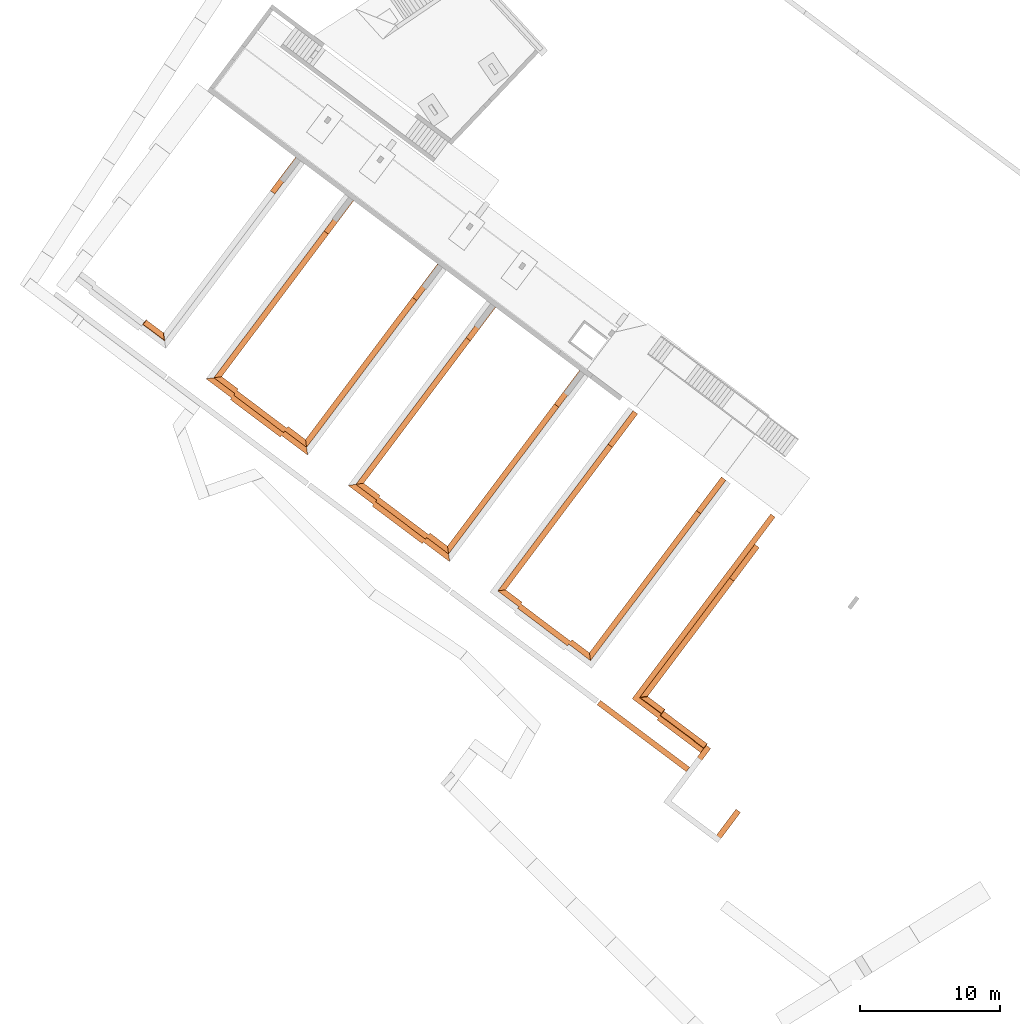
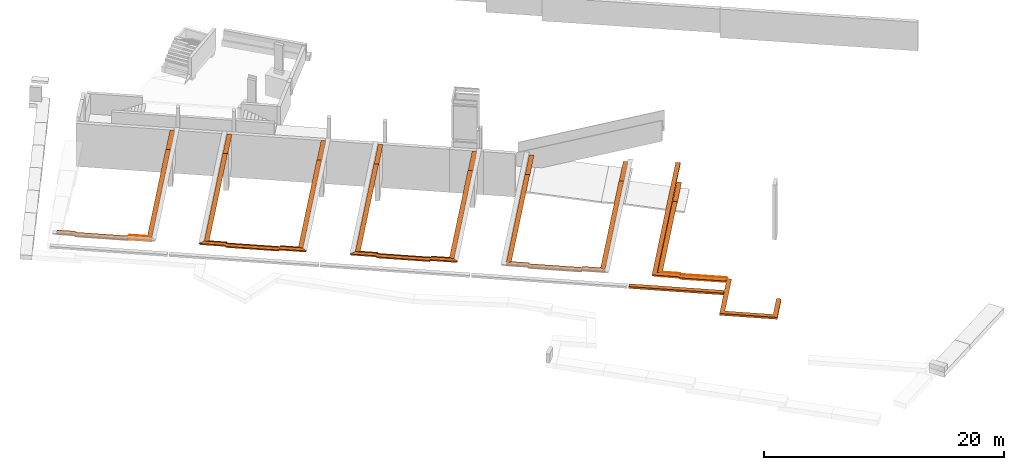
# One storey, part 9 of 11: 7 proxies.
"""IFC2X3 building model written with IfcOpenShell, lengths in metres."""

import ifcopenshell
import ifcopenshell.guid

model = None  # the IFC model being written
_history = None  # IfcOwnerHistory: only IFC2X3 demands one
_inside = {}  # id of a spatial element -> (the spatial element, [elements in it])
_under = {}  # id of a project, library or spatial element -> (it, [spatial elements below it])
_declared = {}  # id of a project -> (the project, [libraries it declares])
_typed = {}  # id of a type object -> (the type object, [elements of that type])
_made_of = {}  # id of a material, layer set ... -> (it, [elements and type objects made of it])


def new_model(schema):
    """Start an empty IFC model of exactly this schema.

    Asked for "IFC4X3", IfcOpenShell would pick the latest addendum, in which some entities
    have other attributes; the version numbers below select the first issue.
    IFC2X3 requires an IfcOwnerHistory on every rooted entity: one is made here for all.
    """
    global model, _history
    if schema == "IFC4X3":
        model = ifcopenshell.file(schema_version=(4, 3, 0, 0))
    else:
        model = ifcopenshell.file(schema=schema)
    _inside.clear()
    _under.clear()
    _declared.clear()
    _typed.clear()
    _made_of.clear()
    _history = None
    if model.schema == "IFC2X3":
        org = make("IfcOrganization", Name="unknown")
        user = make(
            "IfcPersonAndOrganization",
            ThePerson=make("IfcPerson", FamilyName="unknown"),
            TheOrganization=org,
        )
        app = make(
            "IfcApplication",
            ApplicationDeveloper=org,
            Version="unknown",
            ApplicationFullName="unknown",
            ApplicationIdentifier="unknown",
        )
        _history = make(
            "IfcOwnerHistory",
            OwningUser=user,
            OwningApplication=app,
            ChangeAction="ADDED",
            CreationDate=0,
        )
    return model


def make(cls, **values):
    """One entity of the class cls with the attributes given. An attribute that is None is left unset."""
    return model.create_entity(
        cls, **{name: value for name, value in values.items() if value is not None}
    )


def entity(cls, *values):
    """Any entity or typed value of the class cls, its attributes in the order of the schema. None: left unset."""
    e = model.create_entity(cls)
    for i, value in enumerate(values):
        if value is not None:
            e[i] = value
    return e


def rooted(cls, **values):
    """An entity with a GlobalId (a new one), such as an element, a storey or a relation."""
    return make(cls, GlobalId=ifcopenshell.guid.new(), OwnerHistory=_history, **values)


def si_unit(unit_type, name, prefix=None):
    """IfcSIUnit, for example si_unit("LENGTHUNIT", "METRE", prefix="MILLI")."""
    return make("IfcSIUnit", UnitType=unit_type, Prefix=prefix, Name=name)


def converted_unit(unit_type, name, factor, base, dimensions=None, offset=None):
    """IfcConversionBasedUnit, such as the inch: factor (a typed value) times the base unit."""
    return make(
        "IfcConversionBasedUnit"
        if offset is None
        else "IfcConversionBasedUnitWithOffset",
        ConversionOffset=offset,
        Dimensions=None
        if dimensions is None
        else entity("IfcDimensionalExponents", *dimensions),
        UnitType=unit_type,
        Name=name,
        ConversionFactor=make(
            "IfcMeasureWithUnit", ValueComponent=factor, UnitComponent=base
        ),
    )


def derived_unit(unit_type, elements):
    """IfcDerivedUnit: a product of units, each with its exponent."""
    return make(
        "IfcDerivedUnit",
        Elements=[
            make("IfcDerivedUnitElement", Unit=unit, Exponent=power)
            for unit, power in elements
        ],
        UnitType=unit_type,
    )


def assignment(units):
    """IfcUnitAssignment: the units of a project."""
    return None if units is None else make("IfcUnitAssignment", Units=units)


def point(xyz):
    """IfcCartesianPoint."""
    return None if xyz is None else make("IfcCartesianPoint", Coordinates=xyz)


def direction(xyz):
    """IfcDirection."""
    return None if xyz is None else make("IfcDirection", DirectionRatios=xyz)


def frame(location, z_axis=None, x_axis=None):
    """IfcAxis2Placement3D, a coordinate frame: its origin and axes. An axis left out is left unset."""
    return make(
        "IfcAxis2Placement3D",
        Location=point(location),
        Axis=direction(z_axis),
        RefDirection=direction(x_axis),
    )


def origin():
    """The frame at (0, 0, 0) with its axes left unset."""
    return frame((0.0, 0.0, 0.0))


def place(relative_to, where):
    """IfcLocalPlacement: puts the frame where relative to a parent placement (None: the world)."""
    return make(
        "IfcLocalPlacement", PlacementRelTo=relative_to, RelativePlacement=where
    )


def context(
    kind, dimensions, precision=None, world=None, true_north=None, identifier=None
):
    """IfcGeometricRepresentationContext, for example the 3D "Model" context."""
    return make(
        "IfcGeometricRepresentationContext",
        ContextIdentifier=identifier,
        ContextType=kind,
        CoordinateSpaceDimension=dimensions,
        Precision=precision,
        WorldCoordinateSystem=world,
        TrueNorth=true_north,
    )


def subcontext(parent, identifier, kind, view, scale=None):
    """IfcGeometricRepresentationSubContext, for example "Body" below "Model"."""
    return make(
        "IfcGeometricRepresentationSubContext",
        ContextIdentifier=identifier,
        ContextType=kind,
        ParentContext=parent,
        TargetScale=scale,
        TargetView=view,
    )


def project(units=None, contexts=None):
    """IfcProject with its units and contexts."""
    return rooted(
        "IfcProject",
        Name="project",
        RepresentationContexts=contexts,
        UnitsInContext=assignment(units),
    )


def spatial(cls, under=None, at=None, **own):
    """A site, building, storey or space (cls), placed at a placement, below another one or the project."""
    s = rooted(cls, ObjectPlacement=at, **own)
    if under is not None:
        _under.setdefault(under.id(), (under, []))[1].append(s)
    return s


def faces_of(points, faces, orient=None, outer=None):
    """IfcFace entities. A face is a list of loops; a loop is a list of indices into points, from 0.

    orient and outer hold one flag for each loop. By default every Orientation is true, the
    first loop of a face is its IfcFaceOuterBound and the others are IfcFaceBound.
    """
    made = []
    for i, loops in enumerate(faces):
        bounds = []
        for j, loop in enumerate(loops):
            is_outer = j == 0 if outer is None else outer[i][j]
            bounds.append(
                make(
                    "IfcFaceOuterBound" if is_outer else "IfcFaceBound",
                    Bound=make("IfcPolyLoop", Polygon=[points[k] for k in loop]),
                    Orientation=True if orient is None else orient[i][j],
                )
            )
        made.append(make("IfcFace", Bounds=bounds))
    return made


def faceted_brep(points, faces, orient=None, outer=None, voids=None):
    """IfcFacetedBrep: a solid bounded by flat faces; with voids (closed shells), ...WithVoids."""
    shared = [point(p) for p in points]
    hull = make("IfcClosedShell", CfsFaces=faces_of(shared, faces, orient, outer))
    if voids is None:
        return make("IfcFacetedBrep", Outer=hull)
    return make(
        "IfcFacetedBrepWithVoids",
        Outer=hull,
        Voids=[
            make(cls, CfsFaces=faces_of(shared, fs, o, b)) for cls, fs, o, b in voids
        ],
    )


def shape(context_of_items, identifier, shape_type, items):
    """IfcShapeRepresentation: the items that make up one representation, for example the "Body"."""
    return make(
        "IfcShapeRepresentation",
        ContextOfItems=context_of_items,
        RepresentationIdentifier=identifier,
        RepresentationType=shape_type,
        Items=items,
    )


def made_of(thing, what):
    """Note that an element or type object is made of a material, layer set ...; save() writes the relation."""
    if what is not None:
        _made_of.setdefault(what.id(), (what, []))[1].append(thing)
    return thing


def type_object(cls, material=None, **own):
    """A type object (cls), such as IfcWallType, which elements share."""
    return made_of(rooted(cls, **own), material)


def element(
    cls,
    number,
    at=None,
    inside=None,
    cuts=None,
    type_object=None,
    material=None,
    context=None,
    identifier="Body",
    shape_type=None,
    held_by="IfcProductDefinitionShape",
    body=None,
    shapes=None,
    **own,
):
    """One element of the class cls, such as IfcWall. Its Tag is "e" and its number.

    at: its placement. inside: the storey or other place that contains it. cuts: it is an
    opening in that element (IfcRelVoidsElement). A single representation is given by context,
    identifier, shape_type and body (its items); several are given by shapes. held_by: the class
    of the entity that holds the representations. save() writes the other relations.
    """
    e = rooted(cls, Tag="e%d" % number, ObjectPlacement=at, **own)
    if body is not None:
        shapes = [shape(context, identifier, shape_type, body)]
    if shapes is not None:
        e.Representation = make(held_by, Representations=shapes)
    if inside is not None:
        _inside.setdefault(inside.id(), (inside, []))[1].append(e)
    if cuts is not None:
        rooted(
            "IfcRelVoidsElement", RelatingBuildingElement=cuts, RelatedOpeningElement=e
        )
    if type_object is not None:
        _typed.setdefault(type_object.id(), (type_object, []))[1].append(e)
    return made_of(e, material)


def aggregate(whole, parts):
    """IfcRelAggregates: a whole, such as a stair, and the parts it consists of."""
    return rooted("IfcRelAggregates", RelatingObject=whole, RelatedObjects=parts)


def save(model, path):
    """Write the relations noted so far, then the file.

    IfcRelAggregates (storeys below a building ...), IfcRelContainedInSpatialStructure (elements
    in a storey), IfcRelDefinesByType, IfcRelAssociatesMaterial and IfcRelDeclares: one each for
    every whole, place, type object, material and project.
    """
    for whole, parts in _under.values():
        aggregate(whole, parts)
    for where, things in _inside.values():
        rooted(
            "IfcRelContainedInSpatialStructure",
            RelatedElements=things,
            RelatingStructure=where,
        )
    for kind, things in _typed.values():
        rooted("IfcRelDefinesByType", RelatedObjects=things, RelatingType=kind)
    for what, things in _made_of.values():
        rooted("IfcRelAssociatesMaterial", RelatedObjects=things, RelatingMaterial=what)
    for by, libraries in _declared.values():
        rooted("IfcRelDeclares", RelatingContext=by, RelatedDefinitions=libraries)
    model.write(path)


model = new_model("IFC2X3")

# Units and contexts
model_context = context("Model", 3, precision=1e-05, world=origin(), true_north=direction((6.123031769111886e-17, 1.0)))
body_context = subcontext(model_context, "Body", "Model", "MODEL_VIEW")
ifc_project = project(units=[si_unit("LENGTHUNIT", "METRE"), si_unit("AREAUNIT", "SQUARE_METRE"), si_unit("VOLUMEUNIT", "CUBIC_METRE"), converted_unit("PLANEANGLEUNIT", "DEGREE", entity("IfcRatioMeasure", 0.017453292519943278), si_unit("PLANEANGLEUNIT", "RADIAN"), dimensions=[0, 0, 0, 0, 0, 0, 0]), si_unit("MASSUNIT", "GRAM", prefix="KILO"), derived_unit("MASSDENSITYUNIT", [(si_unit("MASSUNIT", "GRAM", prefix="KILO"), 1), (si_unit("LENGTHUNIT", "METRE"), -3)]), derived_unit("IONCONCENTRATIONUNIT", [(si_unit("MASSUNIT", "GRAM", prefix="KILO"), 1), (si_unit("LENGTHUNIT", "METRE"), -3)]), derived_unit("MOMENTOFINERTIAUNIT", [(si_unit("LENGTHUNIT", "METRE"), 4)]), si_unit("TIMEUNIT", "SECOND"), si_unit("FREQUENCYUNIT", "HERTZ"), si_unit("THERMODYNAMICTEMPERATUREUNIT", "DEGREE_CELSIUS"), derived_unit("THERMALTRANSMITTANCEUNIT", [(si_unit("MASSUNIT", "GRAM", prefix="KILO"), 1), (si_unit("THERMODYNAMICTEMPERATUREUNIT", "KELVIN"), -1), (si_unit("TIMEUNIT", "SECOND"), -3)]), derived_unit("THERMALCONDUCTANCEUNIT", [(si_unit("MASSUNIT", "GRAM", prefix="KILO"), 1), (si_unit("THERMODYNAMICTEMPERATUREUNIT", "KELVIN"), -1), (si_unit("TIMEUNIT", "SECOND"), -3), (si_unit("LENGTHUNIT", "METRE"), 1)]), derived_unit("VOLUMETRICFLOWRATEUNIT", [(si_unit("LENGTHUNIT", "METRE"), 3), (si_unit("TIMEUNIT", "SECOND"), -1)]), derived_unit("MASSFLOWRATEUNIT", [(si_unit("MASSUNIT", "GRAM", prefix="KILO"), 1), (si_unit("TIMEUNIT", "SECOND"), -1)]), derived_unit("ROTATIONALFREQUENCYUNIT", [(si_unit("TIMEUNIT", "SECOND"), -1)]), si_unit("ELECTRICCURRENTUNIT", "AMPERE"), si_unit("ELECTRICVOLTAGEUNIT", "VOLT"), si_unit("POWERUNIT", "WATT"), si_unit("FORCEUNIT", "NEWTON", prefix="KILO"), si_unit("ILLUMINANCEUNIT", "LUX"), si_unit("LUMINOUSFLUXUNIT", "LUMEN"), si_unit("LUMINOUSINTENSITYUNIT", "CANDELA"), derived_unit("USERDEFINED", [(si_unit("MASSUNIT", "GRAM", prefix="KILO"), -1), (si_unit("LENGTHUNIT", "METRE"), -2), (si_unit("TIMEUNIT", "SECOND"), 3), (si_unit("LUMINOUSFLUXUNIT", "LUMEN"), 1)]), derived_unit("USERDEFINED", [(si_unit("MASSUNIT", "GRAM", prefix="KILO"), 1), (si_unit("TIMEUNIT", "SECOND"), -3), (si_unit("LENGTHUNIT", "METRE"), 3), (si_unit("ELECTRICCURRENTUNIT", "AMPERE"), -2)]), derived_unit("SOUNDPOWERUNIT", [(si_unit("MASSUNIT", "GRAM", prefix="KILO"), 1), (si_unit("TIMEUNIT", "SECOND"), -3), (si_unit("LENGTHUNIT", "METRE"), 2)]), derived_unit("SOUNDPRESSUREUNIT", [(si_unit("MASSUNIT", "GRAM", prefix="KILO"), 1), (si_unit("LENGTHUNIT", "METRE"), -1), (si_unit("TIMEUNIT", "SECOND"), -2)]), derived_unit("LINEARVELOCITYUNIT", [(si_unit("LENGTHUNIT", "METRE"), 1), (si_unit("TIMEUNIT", "SECOND"), -1)]), si_unit("PRESSUREUNIT", "PASCAL"), derived_unit("USERDEFINED", [(si_unit("MASSUNIT", "GRAM", prefix="KILO"), 1), (si_unit("LENGTHUNIT", "METRE"), -2), (si_unit("TIMEUNIT", "SECOND"), -2)]), derived_unit("LINEARFORCEUNIT", [(si_unit("MASSUNIT", "GRAM", prefix="KILO"), 1), (si_unit("TIMEUNIT", "SECOND"), -2)]), derived_unit("PLANARFORCEUNIT", [(si_unit("MASSUNIT", "GRAM", prefix="KILO"), 1), (si_unit("LENGTHUNIT", "METRE"), -1), (si_unit("TIMEUNIT", "SECOND"), -2)]), derived_unit("SPECIFICHEATCAPACITYUNIT", [(si_unit("THERMODYNAMICTEMPERATUREUNIT", "KELVIN"), -1), (si_unit("LENGTHUNIT", "METRE"), 2), (si_unit("TIMEUNIT", "SECOND"), -2)]), derived_unit("HEATINGVALUEUNIT", [(si_unit("LENGTHUNIT", "METRE"), 2), (si_unit("TIMEUNIT", "SECOND"), -2)]), derived_unit("VAPORPERMEABILITYUNIT", [(si_unit("LENGTHUNIT", "METRE"), -1), (si_unit("TIMEUNIT", "SECOND"), 1)]), derived_unit("DYNAMICVISCOSITYUNIT", [(si_unit("MASSUNIT", "GRAM", prefix="KILO"), 1), (si_unit("TIMEUNIT", "SECOND"), -1), (si_unit("LENGTHUNIT", "METRE"), -1)]), derived_unit("THERMALEXPANSIONCOEFFICIENTUNIT", [(si_unit("THERMODYNAMICTEMPERATUREUNIT", "KELVIN"), -1)]), derived_unit("MODULUSOFELASTICITYUNIT", [(si_unit("MASSUNIT", "GRAM", prefix="KILO"), 1), (si_unit("LENGTHUNIT", "METRE"), -1), (si_unit("TIMEUNIT", "SECOND"), -2)]), derived_unit("ISOTHERMALMOISTURECAPACITYUNIT", [(si_unit("LENGTHUNIT", "METRE"), 3), (si_unit("MASSUNIT", "GRAM", prefix="KILO"), -1)]), derived_unit("MOISTUREDIFFUSIVITYUNIT", [(si_unit("TIMEUNIT", "SECOND"), -1), (si_unit("LENGTHUNIT", "METRE"), 2)])], contexts=[model_context])

# Site, building, storey
site_placement = place(None, origin())
site = spatial("IfcSite", under=ifc_project, at=site_placement, Name="Default", CompositionType="ELEMENT")
building_placement = place(site_placement, frame((0.0, 0.0, 235.0), z_axis=(0.0, 0.0, 1.0), x_axis=(-0.7996477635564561, 0.6004693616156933, 0.0)))
building = spatial("IfcBuilding", under=site, at=building_placement, CompositionType="ELEMENT")
storey_placement = place(building_placement, frame((0.0, 0.0, -4.459999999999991)))
storey = spatial("IfcBuildingStorey", under=building, at=storey_placement, Name="PS1- Vestuari", CompositionType="ELEMENT", Elevation=-4.459999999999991)

# Proxies
building_element_proxy_type = type_object("IfcBuildingElementProxyType", Name="Borde de losa:STR- Formigó- Vora solera 15 cm- 35x30 cm", PredefinedType="NOTDEFINED")
proxy_1_placement = place(storey_placement, frame((13.24514768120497, -20.420191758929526, 3.8199999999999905)))
element("IfcBuildingElementProxy", 1, at=proxy_1_placement, inside=storey, type_object=building_element_proxy_type, Name="Borde de losa:STR- Formigó- Vora solera 15 cm- 35x30 cm", ObjectType="Borde de losa:STR- Formigó- Vora solera 15 cm- 35x30 cm", context=body_context, shape_type="Brep", body=[
    faceted_brep([(0.0, 2.3800000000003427, 0.0), (0.29999999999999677, 2.3800000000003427, 0.0), (0.4, 2.3800000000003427, 0.20000000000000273), (0.0, 2.3800000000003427, 0.2000000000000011), (0.0, 5.100000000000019, 0.2000000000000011), (0.0, 5.100000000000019, 0.0), (0.40000000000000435, 4.700000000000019, 0.20000000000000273), (0.30000000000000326, 4.80000000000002, 0.0), (4.849999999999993, 5.1, 0.2000000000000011), (4.849999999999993, 5.1, 0.0), (4.449999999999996, 4.700000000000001, 0.20000000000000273), (4.5499999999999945, 4.800000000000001, 0.0), (4.8499999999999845, 0.0, 0.0), (4.8499999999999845, 0.0, 0.2000000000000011), (4.449999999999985, 0.0, 0.20000000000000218), (4.549999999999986, 0.0, 0.0)], [[[0, 1, 2, 3]], [[4, 5, 0, 3]], [[6, 4, 3, 2]], [[7, 6, 2, 1]], [[5, 7, 1, 0]], [[8, 9, 5, 4]], [[10, 8, 4, 6]], [[11, 10, 6, 7]], [[9, 11, 7, 5]], [[12, 13, 14, 15]], [[13, 12, 9, 8]], [[14, 13, 8, 10]], [[15, 14, 10, 11]], [[12, 15, 11, 9]]]),
])
proxy_2_placement = place(storey_placement, frame((23.54514768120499, -36.41519175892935, 3.7399999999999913)))
element("IfcBuildingElementProxy", 2, at=proxy_2_placement, inside=storey, type_object=building_element_proxy_type, Name="Borde de losa:STR- Formigó- Vora solera 15 cm- 35x30 cm", ObjectType="Borde de losa:STR- Formigó- Vora solera 15 cm- 35x30 cm", context=body_context, shape_type="Brep", body=[
    faceted_brep([(4.799999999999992, 16.129999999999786, 0.11999999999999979), (4.799999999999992, 16.129999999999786, 0.3199999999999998), (5.199999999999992, 15.729999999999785, 0.3200000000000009), (5.0999999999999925, 15.829999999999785, 0.12000000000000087), (5.199999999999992, 3.0, 0.3200000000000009), (4.799999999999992, 3.0, 0.3199999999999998), (4.799999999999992, 3.0, 0.2), (4.799999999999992, 3.0, 0.11999999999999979), (5.0999999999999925, 3.0, 0.12000000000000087), (5.139999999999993, 3.0, 0.2)], [[[0, 1, 2, 3]], [[4, 5, 6, 7, 8, 9]], [[1, 0, 7, 6, 5]], [[2, 1, 5, 4]], [[3, 2, 4, 9, 8]], [[0, 3, 8, 7]]]),
    faceted_brep([(13.099999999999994, 3.0, 0.3199999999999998), (12.699999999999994, 3.0, 0.3200000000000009), (12.759999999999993, 3.0, 0.2), (12.799999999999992, 3.0, 0.12000000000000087), (13.099999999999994, 3.0, 0.11999999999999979), (13.099999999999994, 3.0, 0.2), (13.099999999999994, 16.129999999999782, 0.3199999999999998), (13.099999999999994, 16.129999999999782, 0.11999999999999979), (12.799999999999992, 15.82999999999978, 0.12000000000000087), (12.699999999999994, 15.729999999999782, 0.3200000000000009)], [[[0, 1, 2, 3, 4, 5]], [[6, 7, 8, 9]], [[7, 6, 0, 5, 4]], [[1, 0, 6, 9]], [[9, 8, 3, 2, 1]], [[4, 3, 8, 7]]]),
    faceted_brep([(4.799999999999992, 3.0, 0.0), (4.799999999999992, 3.0, 0.2), (5.199999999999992, 3.0, 0.2000000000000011), (5.0999999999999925, 3.0, 0.0), (4.799999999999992, 0.0, 0.2), (4.799999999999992, 0.0, 0.0), (5.0999999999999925, 0.0, 0.0), (5.199999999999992, 0.0, 0.2000000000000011)], [[[0, 1, 2, 3]], [[4, 5, 6, 7]], [[1, 0, 5, 4]], [[2, 1, 4, 7]], [[3, 2, 7, 6]], [[0, 3, 6, 5]]]),
    faceted_brep([(13.099999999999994, 0.0, 0.0), (13.099999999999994, 0.0, 0.2), (12.699999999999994, 0.0, 0.2000000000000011), (12.799999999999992, 0.0, 0.0), (13.099999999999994, 3.0, 0.2), (13.099999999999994, 3.0, 0.0), (12.799999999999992, 3.0, 0.0), (12.699999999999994, 3.0, 0.2000000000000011)], [[[0, 1, 2, 3]], [[4, 5, 6, 7]], [[1, 0, 5, 4]], [[2, 1, 4, 7]], [[3, 2, 7, 6]], [[0, 3, 6, 5]]]),
    faceted_brep([(17.499999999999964, 3.0, 0.0), (17.499999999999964, 3.0, 0.2), (17.89999999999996, 3.0, 0.2000000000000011), (17.799999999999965, 3.0, 0.0), (17.499999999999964, 0.0, 0.2), (17.499999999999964, 0.0, 0.0), (17.799999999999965, 0.0, 0.0), (17.89999999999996, 0.0, 0.2000000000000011)], [[[0, 1, 2, 3]], [[4, 5, 6, 7]], [[1, 0, 5, 4]], [[2, 1, 4, 7]], [[3, 2, 7, 6]], [[0, 3, 6, 5]]]),
    faceted_brep([(17.49999999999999, 16.129999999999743, 0.11999999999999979), (17.49999999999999, 16.129999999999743, 0.3199999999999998), (17.899999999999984, 15.729999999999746, 0.3200000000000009), (17.79999999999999, 15.82999999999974, 0.12000000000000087), (17.899999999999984, 3.0, 0.3200000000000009), (17.49999999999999, 3.0, 0.3199999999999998), (17.49999999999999, 3.0, 0.2), (17.49999999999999, 3.0, 0.11999999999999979), (17.79999999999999, 3.0, 0.12000000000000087), (17.83999999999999, 3.0, 0.2)], [[[0, 1, 2, 3]], [[4, 5, 6, 7, 8, 9]], [[1, 0, 7, 6, 5]], [[2, 1, 5, 4]], [[3, 2, 4, 9, 8]], [[0, 3, 8, 7]]]),
    faceted_brep([(25.79999999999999, 3.0, 0.3199999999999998), (25.399999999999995, 3.0, 0.3200000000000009), (25.45999999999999, 3.0, 0.2), (25.49999999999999, 3.0, 0.12000000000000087), (25.79999999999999, 3.0, 0.11999999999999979), (25.79999999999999, 3.0, 0.2), (25.79999999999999, 16.129999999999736, 0.3199999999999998), (25.79999999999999, 16.129999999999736, 0.11999999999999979), (25.49999999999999, 15.829999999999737, 0.12000000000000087), (25.399999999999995, 15.729999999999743, 0.3200000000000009)], [[[0, 1, 2, 3, 4, 5]], [[6, 7, 8, 9]], [[7, 6, 0, 5, 4]], [[1, 0, 6, 9]], [[9, 8, 3, 2, 1]], [[4, 3, 8, 7]]]),
    faceted_brep([(25.799999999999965, 0.0, 0.0), (25.799999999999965, 0.0, 0.2), (25.39999999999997, 0.0, 0.2000000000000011), (25.499999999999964, 0.0, 0.0), (25.799999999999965, 3.0, 0.2), (25.799999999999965, 3.0, 0.0), (25.499999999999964, 3.0, 0.0), (25.39999999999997, 3.0, 0.2000000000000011)], [[[0, 1, 2, 3]], [[4, 5, 6, 7]], [[1, 0, 5, 4]], [[2, 1, 4, 7]], [[3, 2, 7, 6]], [[0, 3, 6, 5]]]),
    faceted_brep([(30.19999999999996, 3.0, 0.0), (30.19999999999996, 3.0, 0.2), (30.599999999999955, 3.0, 0.2000000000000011), (30.49999999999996, 3.0, 0.0), (30.19999999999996, 0.0, 0.2), (30.19999999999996, 0.0, 0.0), (30.49999999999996, 0.0, 0.0), (30.599999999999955, 0.0, 0.2000000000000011)], [[[0, 1, 2, 3]], [[4, 5, 6, 7]], [[1, 0, 5, 4]], [[2, 1, 4, 7]], [[3, 2, 7, 6]], [[0, 3, 6, 5]]]),
    faceted_brep([(30.19999999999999, 16.129999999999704, 0.11999999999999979), (30.19999999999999, 16.129999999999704, 0.3199999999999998), (30.599999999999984, 15.729999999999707, 0.3200000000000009), (30.49999999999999, 15.829999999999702, 0.12000000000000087), (30.599999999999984, 3.0, 0.3200000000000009), (30.19999999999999, 3.0, 0.3199999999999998), (30.19999999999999, 3.0, 0.2), (30.19999999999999, 3.0, 0.11999999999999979), (30.49999999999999, 3.0, 0.12000000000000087), (30.53999999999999, 3.0, 0.2)], [[[0, 1, 2, 3]], [[4, 5, 6, 7, 8, 9]], [[1, 0, 7, 6, 5]], [[2, 1, 5, 4]], [[3, 2, 4, 9, 8]], [[0, 3, 8, 7]]]),
    faceted_brep([(38.499999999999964, 0.0, 0.0), (38.499999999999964, 0.0, 0.2), (38.099999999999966, 0.0, 0.2000000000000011), (38.19999999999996, 0.0, 0.0), (38.499999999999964, 3.0, 0.2), (38.499999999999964, 3.0, 0.0), (38.19999999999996, 3.0, 0.0), (38.099999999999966, 3.0, 0.2000000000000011)], [[[0, 1, 2, 3]], [[4, 5, 6, 7]], [[1, 0, 5, 4]], [[2, 1, 4, 7]], [[3, 2, 7, 6]], [[0, 3, 6, 5]]]),
    faceted_brep([(38.499999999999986, 3.0, 0.3199999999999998), (38.099999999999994, 3.0, 0.3200000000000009), (38.15999999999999, 3.0, 0.2), (38.19999999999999, 3.0, 0.12000000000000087), (38.499999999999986, 3.0, 0.11999999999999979), (38.499999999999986, 3.0, 0.2), (38.499999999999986, 16.1299999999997, 0.3199999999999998), (38.499999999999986, 16.1299999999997, 0.11999999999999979), (38.19999999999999, 15.829999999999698, 0.12000000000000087), (38.099999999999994, 15.729999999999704, 0.3200000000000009)], [[[0, 1, 2, 3, 4, 5]], [[6, 7, 8, 9]], [[7, 6, 0, 5, 4]], [[1, 0, 6, 9]], [[9, 8, 3, 2, 1]], [[4, 3, 8, 7]]]),
    faceted_brep([(42.899999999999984, 16.129999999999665, 0.11999999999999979), (42.899999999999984, 16.129999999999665, 0.3199999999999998), (43.29999999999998, 16.129999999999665, 0.3200000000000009), (43.19999999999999, 16.129999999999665, 0.12000000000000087), (43.29999999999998, 3.0, 0.3200000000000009), (42.899999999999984, 3.0, 0.3199999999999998), (42.899999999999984, 3.0, 0.2), (42.899999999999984, 3.0, 0.11999999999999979), (43.19999999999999, 3.0, 0.12000000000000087), (43.23999999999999, 3.0, 0.2)], [[[0, 1, 2, 3]], [[4, 5, 6, 7, 8, 9]], [[1, 0, 7, 6, 5]], [[2, 1, 5, 4]], [[3, 2, 4, 9, 8]], [[0, 3, 8, 7]]]),
    faceted_brep([(42.899999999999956, 3.0, 0.0), (42.899999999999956, 3.0, 0.2), (43.299999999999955, 3.0, 0.2000000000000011), (43.19999999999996, 3.0, 0.0), (42.899999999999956, 0.0, 0.2), (42.899999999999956, 0.0, 0.0), (43.19999999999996, 0.0, 0.0), (43.299999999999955, 0.0, 0.2000000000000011)], [[[0, 1, 2, 3]], [[4, 5, 6, 7]], [[1, 0, 5, 4]], [[2, 1, 4, 7]], [[3, 2, 7, 6]], [[0, 3, 6, 5]]]),
    faceted_brep([(0.40000000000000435, 5.42598785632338, 0.3199999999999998), (0.0, 5.42598785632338, 0.3200000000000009), (0.06000000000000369, 5.42598785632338, 0.2), (0.10000000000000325, 5.42598785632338, 0.12000000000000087), (0.40000000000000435, 5.42598785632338, 0.11999999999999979), (0.40000000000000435, 5.42598785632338, 0.2), (0.40000000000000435, 16.12999999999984, 0.3199999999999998), (0.40000000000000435, 16.12999999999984, 0.11999999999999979), (0.10000000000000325, 15.829999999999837, 0.12000000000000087), (0.0, 15.729999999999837, 0.3200000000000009)], [[[0, 1, 2, 3, 4, 5]], [[6, 7, 8, 9]], [[7, 6, 0, 5, 4]], [[1, 0, 6, 9]], [[9, 8, 3, 2, 1]], [[4, 3, 8, 7]]]),
    faceted_brep([(0.3999999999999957, 2.425987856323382, 0.0), (0.3999999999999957, 2.425987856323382, 0.2), (0.0, 2.425987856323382, 0.2000000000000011), (0.0999999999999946, 2.425987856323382, 0.0), (0.3999999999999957, 5.425987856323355, 0.2), (0.3999999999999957, 5.425987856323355, 0.0), (0.0999999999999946, 5.425987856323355, 0.0), (0.0, 5.425987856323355, 0.2000000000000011)], [[[0, 1, 2, 3]], [[4, 5, 6, 7]], [[1, 0, 5, 4]], [[2, 1, 4, 7]], [[3, 2, 7, 6]], [[0, 3, 6, 5]]]),
])
proxy_3_placement = place(storey_placement, frame((28.34514768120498, -20.685191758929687, 3.859999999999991)))
element("IfcBuildingElementProxy", 3, at=proxy_3_placement, inside=storey, type_object=building_element_proxy_type, Name="Borde de losa:STR- Formigó- Vora solera 15 cm- 35x30 cm", ObjectType="Borde de losa:STR- Formigó- Vora solera 15 cm- 35x30 cm", context=body_context, shape_type="Brep", body=[
    faceted_brep([(8.300000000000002, 0.400000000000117, 0.0), (8.300000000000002, 0.400000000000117, 0.2), (7.900000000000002, 0.0, 0.2000000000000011), (8.0, 0.10000000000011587, 0.0), (6.420000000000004, 0.400000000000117, 0.0), (6.420000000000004, 0.10000000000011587, 0.0), (6.420000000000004, 0.0, 0.2000000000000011), (6.420000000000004, 0.400000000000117, 0.2)], [[[0, 1, 2, 3]], [[4, 5, 6, 7]], [[1, 0, 4, 7]], [[2, 1, 7, 6]], [[3, 2, 6, 5]], [[0, 3, 5, 4]]]),
    faceted_brep([(6.420000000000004, 0.5450000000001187, 0.0), (6.420000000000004, 0.5450000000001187, 0.2), (6.420000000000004, 0.400000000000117, 0.20000000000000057), (6.420000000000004, 0.14500000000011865, 0.2000000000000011), (6.420000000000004, 0.24500000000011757, 0.0), (1.9549999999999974, 0.5450000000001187, 0.0), (1.9549999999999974, 0.24500000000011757, 0.0), (1.9549999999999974, 0.14500000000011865, 0.2000000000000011), (1.9549999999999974, 0.400000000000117, 0.20000000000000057), (1.9549999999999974, 0.5450000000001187, 0.2)], [[[0, 1, 2, 3, 4]], [[5, 6, 7, 8, 9]], [[1, 0, 5, 9]], [[3, 2, 1, 9, 8, 7]], [[4, 3, 7, 6]], [[0, 4, 6, 5]]]),
    faceted_brep([(1.9549999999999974, 0.400000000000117, 0.0), (1.9549999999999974, 0.400000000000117, 0.2), (1.9549999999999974, 0.0, 0.2000000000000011), (1.9549999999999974, 0.10000000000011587, 0.0), (0.0, 0.4000000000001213, 0.0), (0.3000000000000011, 0.1000000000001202, 0.0), (0.4, 0.0, 0.2000000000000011), (0.0, 0.4000000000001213, 0.2)], [[[0, 1, 2, 3]], [[4, 5, 6, 7]], [[1, 0, 4, 7]], [[2, 1, 7, 6]], [[3, 2, 6, 5]], [[0, 3, 5, 4]]]),
    faceted_brep([(14.654999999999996, 0.4000000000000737, 0.0), (14.654999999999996, 0.4000000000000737, 0.2), (14.654999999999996, 0.0, 0.2000000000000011), (14.654999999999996, 0.10000000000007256, 0.0), (12.699999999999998, 0.400000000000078, 0.0), (13.0, 0.10000000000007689, 0.0), (13.100000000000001, 0.0, 0.2000000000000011), (12.699999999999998, 0.400000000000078, 0.2)], [[[0, 1, 2, 3]], [[4, 5, 6, 7]], [[1, 0, 4, 7]], [[2, 1, 7, 6]], [[3, 2, 6, 5]], [[0, 3, 5, 4]]]),
    faceted_brep([(19.12, 0.5450000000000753, 0.0), (19.12, 0.5450000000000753, 0.2), (19.12, 0.4000000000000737, 0.20000000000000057), (19.12, 0.14500000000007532, 0.2000000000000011), (19.12, 0.24500000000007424, 0.0), (14.654999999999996, 0.5450000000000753, 0.0), (14.654999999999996, 0.24500000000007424, 0.0), (14.654999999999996, 0.14500000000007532, 0.2000000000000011), (14.654999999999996, 0.4000000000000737, 0.20000000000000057), (14.654999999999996, 0.5450000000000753, 0.2)], [[[0, 1, 2, 3, 4]], [[5, 6, 7, 8, 9]], [[1, 0, 5, 9]], [[3, 2, 1, 9, 8, 7]], [[4, 3, 7, 6]], [[0, 4, 6, 5]]]),
    faceted_brep([(21.0, 0.4000000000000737, 0.0), (21.0, 0.4000000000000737, 0.2), (20.599999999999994, 0.0, 0.2000000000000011), (20.7, 0.10000000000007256, 0.0), (19.12, 0.4000000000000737, 0.0), (19.12, 0.10000000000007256, 0.0), (19.12, 0.0, 0.2000000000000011), (19.12, 0.4000000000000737, 0.2)], [[[0, 1, 2, 3]], [[4, 5, 6, 7]], [[1, 0, 4, 7]], [[2, 1, 7, 6]], [[3, 2, 6, 5]], [[0, 3, 5, 4]]]),
    faceted_brep([(27.354999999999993, 0.40000000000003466, 0.0), (27.354999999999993, 0.40000000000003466, 0.2), (27.354999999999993, 0.0, 0.2000000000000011), (27.354999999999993, 0.10000000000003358, 0.0), (25.399999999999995, 0.400000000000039, 0.0), (25.699999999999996, 0.1000000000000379, 0.0), (25.79999999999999, 0.0, 0.2000000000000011), (25.399999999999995, 0.400000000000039, 0.2)], [[[0, 1, 2, 3]], [[4, 5, 6, 7]], [[1, 0, 4, 7]], [[2, 1, 7, 6]], [[3, 2, 6, 5]], [[0, 3, 5, 4]]]),
    faceted_brep([(31.82, 0.5450000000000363, 0.0), (31.82, 0.5450000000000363, 0.2), (31.82, 0.40000000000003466, 0.20000000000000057), (31.82, 0.14500000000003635, 0.2000000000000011), (31.82, 0.24500000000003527, 0.0), (27.354999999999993, 0.5450000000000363, 0.0), (27.354999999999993, 0.24500000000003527, 0.0), (27.354999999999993, 0.14500000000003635, 0.2000000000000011), (27.354999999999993, 0.40000000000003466, 0.20000000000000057), (27.354999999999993, 0.5450000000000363, 0.2)], [[[0, 1, 2, 3, 4]], [[5, 6, 7, 8, 9]], [[1, 0, 5, 9]], [[3, 2, 1, 9, 8, 7]], [[4, 3, 7, 6]], [[0, 4, 6, 5]]]),
    faceted_brep([(33.699999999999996, 0.40000000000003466, 0.0), (33.699999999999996, 0.40000000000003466, 0.2), (33.300000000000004, 0.0, 0.2000000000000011), (33.4, 0.10000000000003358, 0.0), (31.82, 0.40000000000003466, 0.0), (31.82, 0.10000000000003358, 0.0), (31.82, 0.0, 0.2000000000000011), (31.82, 0.40000000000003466, 0.2)], [[[0, 1, 2, 3]], [[4, 5, 6, 7]], [[1, 0, 4, 7]], [[2, 1, 7, 6]], [[3, 2, 6, 5]], [[0, 3, 5, 4]]]),
    faceted_brep([(44.519999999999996, 0.5449999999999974, 0.0), (44.519999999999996, 0.5449999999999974, 0.2), (44.519999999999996, 0.3999999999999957, 0.20000000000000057), (44.519999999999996, 0.14499999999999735, 0.2000000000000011), (44.519999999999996, 0.24499999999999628, 0.0), (40.05499999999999, 0.5449999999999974, 0.0), (40.05499999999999, 0.24499999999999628, 0.0), (40.05499999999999, 0.14499999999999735, 0.2000000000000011), (40.05499999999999, 0.3999999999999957, 0.20000000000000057), (40.05499999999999, 0.5449999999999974, 0.2)], [[[0, 1, 2, 3, 4]], [[5, 6, 7, 8, 9]], [[1, 0, 5, 9]], [[3, 2, 1, 9, 8, 7]], [[4, 3, 7, 6]], [[0, 4, 6, 5]]]),
    faceted_brep([(46.099999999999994, 0.3999999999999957, 0.0), (46.099999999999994, 0.3999999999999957, 0.2), (46.099999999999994, 0.0, 0.2000000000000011), (46.099999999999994, 0.0999999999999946, 0.0), (44.519999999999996, 0.3999999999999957, 0.0), (44.519999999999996, 0.0999999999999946, 0.0), (44.519999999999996, 0.0, 0.2000000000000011), (44.519999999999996, 0.3999999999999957, 0.2)], [[[0, 1, 2, 3]], [[4, 5, 6, 7]], [[1, 0, 4, 7]], [[2, 1, 7, 6]], [[3, 2, 6, 5]], [[0, 3, 5, 4]]]),
])
proxy_4_placement = place(storey_placement, frame((18.095147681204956, -20.68519175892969, 3.859999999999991)))
element("IfcBuildingElementProxy", 4, at=proxy_4_placement, inside=storey, type_object=building_element_proxy_type, Name="Borde de losa:STR- Formigó- Vora solera 15 cm- 35x30 cm", ObjectType="Borde de losa:STR- Formigó- Vora solera 15 cm- 35x30 cm", context=body_context, shape_type="Brep", body=[
    faceted_brep([(50.305000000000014, 0.4, 0.0), (50.305000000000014, 0.4, 0.2), (50.305000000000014, 0.14500000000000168, 0.2000000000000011), (50.305000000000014, 0.0, 0.2000000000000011), (50.305000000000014, 0.09999999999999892, 0.0), (50.305000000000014, 0.2450000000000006, 0.0), (48.35000000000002, 0.40000000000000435, 0.0), (48.65000000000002, 0.10000000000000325, 0.0), (48.75000000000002, 0.0, 0.2000000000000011), (48.35000000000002, 0.40000000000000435, 0.2)], [[[0, 1, 2, 3, 4, 5]], [[6, 7, 8, 9]], [[1, 0, 6, 9]], [[3, 2, 1, 9, 8]], [[4, 3, 8, 7]], [[0, 5, 4, 7, 6]]]),
    faceted_brep([(5.850000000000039, 0.4000000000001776, 0.0), (5.850000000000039, 0.4000000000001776, 0.2), (5.450000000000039, 0.0, 0.2000000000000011), (5.550000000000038, 0.10000000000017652, 0.0), (3.9000000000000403, 0.40000000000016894, 0.0), (3.9000000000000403, 0.10000000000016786, 0.0), (3.9000000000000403, 0.0, 0.2000000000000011), (3.9000000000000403, 0.40000000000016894, 0.2)], [[[0, 1, 2, 3]], [[4, 5, 6, 7]], [[1, 0, 4, 7]], [[2, 1, 7, 6]], [[3, 2, 6, 5]], [[0, 3, 5, 4]]]),
    faceted_brep([(3.9000000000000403, 0.5450000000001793, 0.0), (3.9000000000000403, 0.5450000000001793, 0.2), (3.9000000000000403, 0.40000000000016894, 0.20000000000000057), (3.9000000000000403, 0.1450000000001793, 0.2000000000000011), (3.9000000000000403, 0.24500000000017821, 0.0), (0.0, 0.5450000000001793, 0.0), (0.0, 0.24500000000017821, 0.0), (0.0, 0.1450000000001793, 0.2000000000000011), (0.0, 0.5450000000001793, 0.2)], [[[0, 1, 2, 3, 4]], [[5, 6, 7, 8]], [[1, 0, 5, 8]], [[3, 2, 1, 8, 7]], [[4, 3, 7, 6]], [[0, 4, 6, 5]]]),
])
proxy_5_placement = place(storey_placement, frame((18.095147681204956, -36.41519175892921, 4.0)))
element("IfcBuildingElementProxy", 5, at=proxy_5_placement, inside=storey, type_object=building_element_proxy_type, Name="Borde de losa:STR- Formigó- Vora solera 15 cm- 35x30 cm", ObjectType="Borde de losa:STR- Formigó- Vora solera 15 cm- 35x30 cm", context=body_context, shape_type="Brep", body=[
    faceted_brep([(0.0, 16.574999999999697, 0.050000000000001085), (0.0, 16.274999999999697, 0.05), (0.0, 16.274999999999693, 0.24000000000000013), (0.0, 16.665352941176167, 0.23070588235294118), (3.9000000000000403, 16.2749999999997, 0.04999999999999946), (3.9000000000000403, 16.5749999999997, 0.050000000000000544), (3.9000000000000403, 16.66535294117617, 0.23070588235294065), (3.9000000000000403, 16.2749999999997, 0.23999999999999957)], [[[0, 1, 2, 3]], [[4, 5, 6, 7]], [[1, 4, 7, 2]], [[5, 0, 3, 6]], [[1, 0, 5, 4]], [[3, 2, 7, 6]]]),
    faceted_brep([(5.849999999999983, 16.274999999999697, 0.24000000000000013), (3.9000000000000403, 16.2749999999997, 0.24000000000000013), (3.9000000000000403, 16.129999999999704, 0.24000000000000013), (5.849999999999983, 16.1299999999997, 0.23999999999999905), (3.9000000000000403, 16.429999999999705, 0.050000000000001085), (3.9000000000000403, 16.129999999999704, 0.05), (3.9000000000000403, 16.522058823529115, 0.23411764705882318), (5.849999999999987, 16.1299999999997, 0.04999999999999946), (6.1499999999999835, 16.4299999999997, 0.050000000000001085), (6.099999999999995, 16.52205882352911, 0.23411764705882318), (6.240406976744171, 16.52040697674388, 0.23081395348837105), (5.849999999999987, 0.0, 0.04999999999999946), (6.149999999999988, 0.0, 0.050000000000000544), (6.240406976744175, 0.0, 0.23081395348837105), (5.849999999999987, 0.0, 0.23999999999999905)], [[[0, 1, 2, 3]], [[4, 5, 2, 1, 6]], [[5, 7, 3, 2]], [[8, 4, 6, 9, 10]], [[5, 4, 8, 7]], [[11, 12, 13, 14]], [[7, 11, 14, 3]], [[12, 8, 10, 13]], [[7, 8, 12, 11]], [[0, 3, 14, 13, 10, 9]], [[1, 0, 9, 6]]]),
    faceted_brep([(7.570481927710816, 17.975240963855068, 0.1995180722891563), (7.97499999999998, 18.374999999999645, 0.1900000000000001), (0.0, 18.374999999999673, 0.1900000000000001), (0.0, 17.975240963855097, 0.1995180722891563), (7.97499999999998, 17.979999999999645, 0.18999999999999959), (7.97499999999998, 18.074999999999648, 0.0), (7.97499999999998, 18.374999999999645, 0.0), (0.0, 18.374999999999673, 0.0), (0.0, 18.074999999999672, 0.0)], [[[0, 1, 2, 3]], [[1, 0, 4]], [[5, 6, 1, 4]], [[7, 8, 3, 2]], [[6, 7, 2, 1]], [[8, 5, 4, 0, 3]], [[6, 5, 8, 7]]]),
])
proxy_6_placement = place(storey_placement, frame((40.651301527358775, -20.285191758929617, 4.039999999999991)))
element("IfcBuildingElementProxy", 6, at=proxy_6_placement, inside=storey, type_object=building_element_proxy_type, Name="Borde de losa:STR- Formigó- Vora solera 15 cm- 35x30 cm", ObjectType="Borde de losa:STR- Formigó- Vora solera 15 cm- 35x30 cm", context=body_context, shape_type="Brep", body=[
    faceted_brep([(0.39384615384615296, 0.0, 0.0), (0.39384615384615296, 0.0, 0.19999999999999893), (0.0, 0.39384615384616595, 0.18769230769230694), (0.09384615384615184, 0.30000000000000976, 0.0), (2.3488461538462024, 0.0, 0.2), (2.3488461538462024, 0.0, 0.0), (2.3488461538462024, 0.30000000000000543, 0.0), (2.3488461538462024, 0.39700000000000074, 0.19400000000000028), (2.3488461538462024, 0.14500000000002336, 0.2), (0.39384615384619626, 0.14500000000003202, 0.2), (0.2018461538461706, 0.39700000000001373, 0.19400000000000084)], [[[0, 1, 2, 3]], [[4, 5, 6, 7, 8]], [[1, 0, 5, 4]], [[1, 4, 8, 9]], [[6, 3, 2, 10, 7]], [[0, 3, 6, 5]], [[9, 10, 2, 1]], [[10, 9, 8, 7]]]),
    faceted_brep([(2.3488461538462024, 0.14500000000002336, 0.0), (2.3488461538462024, 0.145000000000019, 0.2), (2.3488461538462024, 0.5402941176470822, 0.19058823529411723), (2.3488461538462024, 0.44500000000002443, 0.0), (6.813846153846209, 0.145000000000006, 0.2), (6.813846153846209, 0.145000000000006, 0.0), (6.813846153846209, 0.4450000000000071, 0.0), (6.813846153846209, 0.5402941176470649, 0.19058823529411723)], [[[0, 1, 2, 3]], [[4, 5, 6, 7]], [[1, 0, 5, 4]], [[6, 3, 2, 7]], [[0, 3, 6, 5]], [[2, 1, 4, 7]]]),
    faceted_brep([(6.813846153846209, 0.0, 0.0), (6.813846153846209, 0.0, 0.2), (6.813846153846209, 0.14500000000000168, 0.2), (6.813846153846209, 0.39700000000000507, 0.19399999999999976), (6.813846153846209, 0.30000000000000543, 0.0), (8.693846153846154, 0.0, 0.2), (8.693846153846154, 0.0, 0.0), (8.993846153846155, 0.3000000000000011, 0.0), (9.090107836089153, 0.39626168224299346, 0.19252336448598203), (8.693846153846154, 0.14499999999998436, 0.2), (9.01184615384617, 0.39700000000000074, 0.1940000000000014)], [[[0, 1, 2, 3, 4]], [[5, 6, 7, 8]], [[1, 0, 6, 5]], [[1, 5, 9, 2]], [[7, 4, 3, 10, 8]], [[0, 4, 7, 6]], [[10, 9, 5, 8]], [[9, 10, 3, 2]]]),
])
proxy_7_placement = place(storey_placement, frame((53.351301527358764, -20.285191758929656, 4.039999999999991)))
element("IfcBuildingElementProxy", 7, at=proxy_7_placement, inside=storey, type_object=building_element_proxy_type, Name="Borde de losa:STR- Formigó- Vora solera 15 cm- 35x30 cm", ObjectType="Borde de losa:STR- Formigó- Vora solera 15 cm- 35x30 cm", context=body_context, shape_type="Brep", body=[
    faceted_brep([(0.39384615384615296, 0.0, 0.0), (0.39384615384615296, 0.0, 0.19999999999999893), (0.0, 0.39384615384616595, 0.18769230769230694), (0.09384615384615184, 0.30000000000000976, 0.0), (2.3488461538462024, 0.0, 0.2), (2.3488461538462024, 0.0, 0.0), (2.3488461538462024, 0.30000000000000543, 0.0), (2.3488461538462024, 0.39700000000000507, 0.19400000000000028), (2.3488461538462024, 0.14500000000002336, 0.2), (0.39384615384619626, 0.1450000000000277, 0.2), (0.2018461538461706, 0.39700000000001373, 0.19400000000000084)], [[[0, 1, 2, 3]], [[4, 5, 6, 7, 8]], [[1, 0, 5, 4]], [[1, 4, 8, 9]], [[6, 3, 2, 10, 7]], [[0, 3, 6, 5]], [[9, 10, 2, 1]], [[10, 9, 8, 7]]]),
    faceted_brep([(8.693846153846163, 0.14500000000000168, 0.2000000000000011), (9.011846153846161, 0.39699999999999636, 0.19400000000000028), (6.813846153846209, 0.39700000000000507, 0.19399999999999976), (6.813846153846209, 0.1449999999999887, 0.2), (6.813846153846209, 0.0, 0.0), (6.813846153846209, 0.0, 0.2), (6.813846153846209, 0.30000000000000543, 0.0), (8.693846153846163, 0.0, 0.2), (8.693846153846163, 0.0, 0.0), (8.993846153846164, 0.3000000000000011, 0.0), (9.09010783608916, 0.3962616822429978, 0.19252336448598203)], [[[0, 1, 2, 3]], [[4, 5, 3, 2, 6]], [[7, 8, 9, 10]], [[5, 4, 8, 7]], [[5, 7, 0, 3]], [[9, 6, 2, 1, 10]], [[4, 6, 9, 8]], [[1, 0, 7, 10]]]),
    faceted_brep([(2.3488461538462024, 0.14500000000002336, 0.0), (2.3488461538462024, 0.145000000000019, 0.2), (2.3488461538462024, 0.5402941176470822, 0.19058823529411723), (2.3488461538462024, 0.44500000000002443, 0.0), (6.813846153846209, 0.145000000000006, 0.2), (6.813846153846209, 0.145000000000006, 0.0), (6.813846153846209, 0.4450000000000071, 0.0), (6.813846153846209, 0.5402941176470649, 0.19058823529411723)], [[[0, 1, 2, 3]], [[4, 5, 6, 7]], [[1, 0, 5, 4]], [[6, 3, 2, 7]], [[0, 3, 6, 5]], [[2, 1, 4, 7]]]),
])

save(model, "model.ifc")
